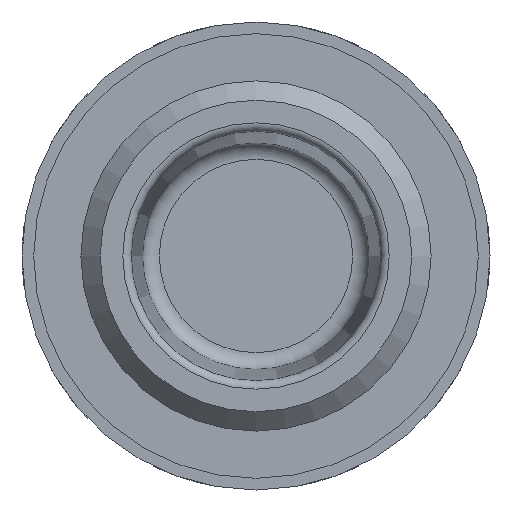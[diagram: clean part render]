
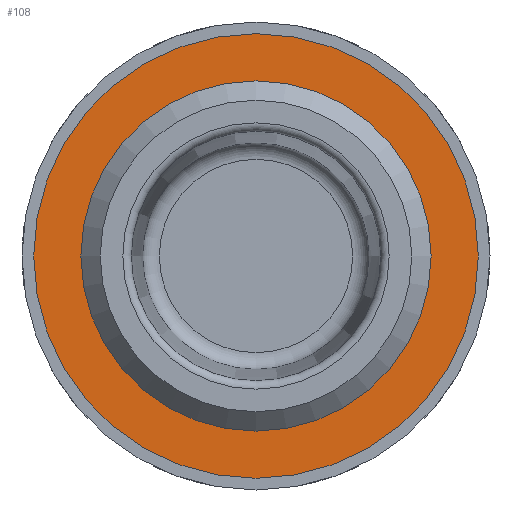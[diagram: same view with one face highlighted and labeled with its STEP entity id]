
A CAD part, left-side view. The second image highlights one B-rep face of the part: STEP entity #108.
In plain terms, the highlighted planar face has unit normal (-1, 0, 0).
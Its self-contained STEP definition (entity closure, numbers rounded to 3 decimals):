
#108 = ADVANCED_FACE( '', ( #200, #201 ), #202, .T. );
#200 = FACE_BOUND( '', #326, .T. );
#201 = FACE_OUTER_BOUND( '', #327, .T. );
#202 = PLANE( '', #328 );
#326 = EDGE_LOOP( '', ( #611 ) );
#327 = EDGE_LOOP( '', ( #612 ) );
#328 = AXIS2_PLACEMENT_3D( '', #613, #614, #615 );
#611 = ORIENTED_EDGE( '', *, *, #924, .T. );
#612 = ORIENTED_EDGE( '', *, *, #925, .F. );
#613 = CARTESIAN_POINT( '', ( 9.9, 13.3, 0. ) );
#614 = DIRECTION( '', ( -1., 0., 0. ) );
#615 = DIRECTION( '', ( 0., -1., 0. ) );
#924 = EDGE_CURVE( '', #1140, #1140, #1141, .T. );
#925 = EDGE_CURVE( '', #1142, #1142, #1143, .T. );
#1140 = VERTEX_POINT( '', #1488 );
#1141 = CIRCLE( '', #1489, 10.478 );
#1142 = VERTEX_POINT( '', #1490 );
#1143 = CIRCLE( '', #1491, 13.3 );
#1488 = CARTESIAN_POINT( '', ( 9.9, 10.478, 0. ) );
#1489 = AXIS2_PLACEMENT_3D( '', #1662, #1663, #1664 );
#1490 = CARTESIAN_POINT( '', ( 9.9, 13.3, 0. ) );
#1491 = AXIS2_PLACEMENT_3D( '', #1665, #1666, #1667 );
#1662 = CARTESIAN_POINT( '', ( 9.9, 0., 0. ) );
#1663 = DIRECTION( '', ( 1., 0., 0. ) );
#1664 = DIRECTION( '', ( 0., 1., 0. ) );
#1665 = CARTESIAN_POINT( '', ( 9.9, 0., 0. ) );
#1666 = DIRECTION( '', ( 1., 0., 0. ) );
#1667 = DIRECTION( '', ( 0., 1., 0. ) );
